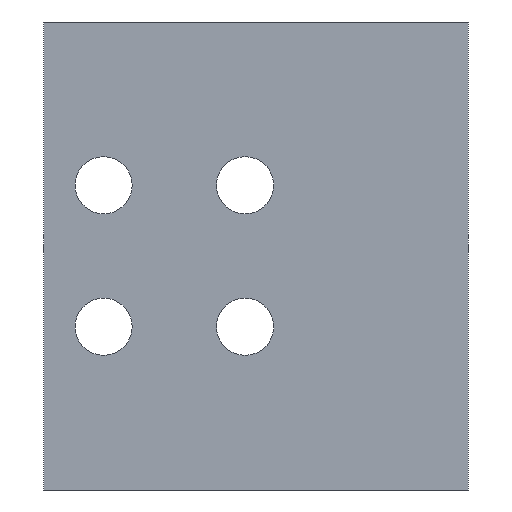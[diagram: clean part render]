
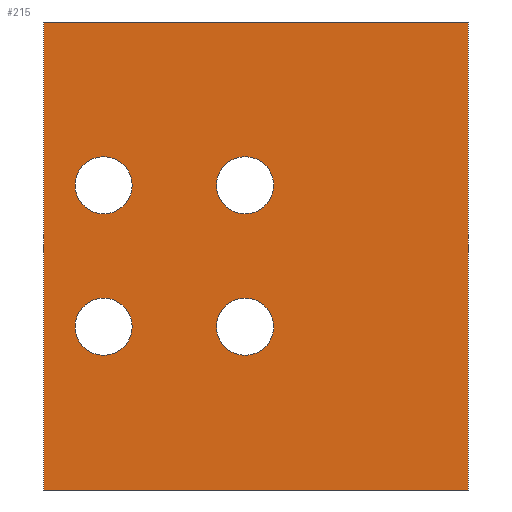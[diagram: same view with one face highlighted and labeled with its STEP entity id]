
A CAD part, front view. The second image highlights one B-rep face of the part: STEP entity #215.
In plain terms, the highlighted planar face has unit normal (0, -1, 0).
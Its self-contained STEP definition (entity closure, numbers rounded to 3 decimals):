
#105 = VERTEX_POINT( '', #272 );
#107 = EDGE_CURVE( '', #105, #131, #274, .T. );
#109 = EDGE_CURVE( '', #149, #113, #276, .T. );
#111 = EDGE_CURVE( '', #223, #219, #278, .T. );
#113 = VERTEX_POINT( '', #280 );
#119 = VERTEX_POINT( '', #286 );
#123 = VERTEX_POINT( '', #290 );
#131 = VERTEX_POINT( '', #298 );
#135 = VERTEX_POINT( '', #303 );
#141 = VERTEX_POINT( '', #309 );
#143 = EDGE_CURVE( '', #135, #223, #311, .T. );
#149 = VERTEX_POINT( '', #318 );
#157 = VERTEX_POINT( '', #327 );
#171 = EDGE_CURVE( '', #211, #119, #348, .T. );
#185 = EDGE_CURVE( '', #135, #157, #363, .T. );
#187 = EDGE_CURVE( '', #119, #211, #365, .T. );
#195 = EDGE_CURVE( '', #131, #105, #374, .T. );
#211 = VERTEX_POINT( '', #392 );
#213 = EDGE_CURVE( '', #123, #141, #394, .T. );
#215 = ADVANCED_FACE( '', ( #396, #397, #398, #399, #400 ), #401, .T. );
#219 = VERTEX_POINT( '', #405 );
#223 = VERTEX_POINT( '', #409 );
#229 = EDGE_CURVE( '', #157, #219, #415, .T. );
#235 = EDGE_CURVE( '', #113, #149, #421, .T. );
#239 = EDGE_CURVE( '', #141, #123, #426, .T. );
#272 = CARTESIAN_POINT( '', ( -22.75, 0., 13. ) );
#274 = CIRCLE( '', #455, 5.25 );
#276 = CIRCLE( '', #458, 5.25 );
#278 = LINE( '', #461, #462 );
#280 = CARTESIAN_POINT( '', ( 3.25, 0., -13. ) );
#286 = CARTESIAN_POINT( '', ( -22.75, 0., -13. ) );
#290 = CARTESIAN_POINT( '', ( 3.25, 0., 13. ) );
#298 = CARTESIAN_POINT( '', ( -33.25, 0., 13. ) );
#303 = CARTESIAN_POINT( '', ( 39., 0., 43. ) );
#309 = CARTESIAN_POINT( '', ( -7.25, 0., 13. ) );
#311 = LINE( '', #503, #504 );
#318 = CARTESIAN_POINT( '', ( -7.25, 0., -13. ) );
#327 = CARTESIAN_POINT( '', ( 39., 0., -43. ) );
#348 = CIRCLE( '', #548, 5.25 );
#363 = LINE( '', #571, #572 );
#365 = CIRCLE( '', #575, 5.25 );
#374 = CIRCLE( '', #588, 5.25 );
#392 = CARTESIAN_POINT( '', ( -33.25, 0., -13. ) );
#394 = CIRCLE( '', #614, 5.25 );
#396 = FACE_BOUND( '', #616, .T. );
#397 = FACE_BOUND( '', #617, .T. );
#398 = FACE_BOUND( '', #618, .T. );
#399 = FACE_BOUND( '', #619, .T. );
#400 = FACE_OUTER_BOUND( '', #620, .T. );
#401 = PLANE( '', #621 );
#405 = CARTESIAN_POINT( '', ( -39., 0., -43. ) );
#409 = CARTESIAN_POINT( '', ( -39., 0., 43. ) );
#415 = LINE( '', #642, #643 );
#421 = CIRCLE( '', #650, 5.25 );
#426 = CIRCLE( '', #656, 5.25 );
#455 = AXIS2_PLACEMENT_3D( '', #679, #680, #681 );
#458 = AXIS2_PLACEMENT_3D( '', #682, #683, #684 );
#461 = CARTESIAN_POINT( '', ( -39., 0., 43. ) );
#462 = VECTOR( '', #685, 1. );
#503 = CARTESIAN_POINT( '', ( 39., 0., 43. ) );
#504 = VECTOR( '', #699, 1. );
#548 = AXIS2_PLACEMENT_3D( '', #756, #757, #758 );
#571 = CARTESIAN_POINT( '', ( 39., 0., 43. ) );
#572 = VECTOR( '', #773, 1. );
#575 = AXIS2_PLACEMENT_3D( '', #774, #775, #776 );
#588 = AXIS2_PLACEMENT_3D( '', #789, #790, #791 );
#614 = AXIS2_PLACEMENT_3D( '', #813, #814, #815 );
#616 = EDGE_LOOP( '', ( #817, #818 ) );
#617 = EDGE_LOOP( '', ( #819, #820 ) );
#618 = EDGE_LOOP( '', ( #821, #822 ) );
#619 = EDGE_LOOP( '', ( #823, #824 ) );
#620 = EDGE_LOOP( '', ( #825, #826, #827, #828 ) );
#621 = AXIS2_PLACEMENT_3D( '', #829, #830, #831 );
#642 = CARTESIAN_POINT( '', ( 39., 0., -43. ) );
#643 = VECTOR( '', #835, 1. );
#650 = AXIS2_PLACEMENT_3D( '', #836, #837, #838 );
#656 = AXIS2_PLACEMENT_3D( '', #847, #848, #849 );
#679 = CARTESIAN_POINT( '', ( -28., 0., 13. ) );
#680 = DIRECTION( '', ( 0., 1., 0. ) );
#681 = DIRECTION( '', ( -1., 0., 0. ) );
#682 = CARTESIAN_POINT( '', ( -2., 0., -13. ) );
#683 = DIRECTION( '', ( 0., 1., 0. ) );
#684 = DIRECTION( '', ( -1., 0., 0. ) );
#685 = DIRECTION( '', ( 0., 0., -1. ) );
#699 = DIRECTION( '', ( -1., 0., 0. ) );
#756 = CARTESIAN_POINT( '', ( -28., 0., -13. ) );
#757 = DIRECTION( '', ( 0., 1., 0. ) );
#758 = DIRECTION( '', ( -1., 0., 0. ) );
#773 = DIRECTION( '', ( 0., 0., -1. ) );
#774 = CARTESIAN_POINT( '', ( -28., 0., -13. ) );
#775 = DIRECTION( '', ( 0., 1., 0. ) );
#776 = DIRECTION( '', ( -1., 0., 0. ) );
#789 = CARTESIAN_POINT( '', ( -28., 0., 13. ) );
#790 = DIRECTION( '', ( 0., 1., 0. ) );
#791 = DIRECTION( '', ( -1., 0., 0. ) );
#813 = CARTESIAN_POINT( '', ( -2., 0., 13. ) );
#814 = DIRECTION( '', ( 0., 1., 0. ) );
#815 = DIRECTION( '', ( -1., 0., 0. ) );
#817 = ORIENTED_EDGE( '', *, *, #213, .T. );
#818 = ORIENTED_EDGE( '', *, *, #239, .T. );
#819 = ORIENTED_EDGE( '', *, *, #107, .T. );
#820 = ORIENTED_EDGE( '', *, *, #195, .T. );
#821 = ORIENTED_EDGE( '', *, *, #235, .T. );
#822 = ORIENTED_EDGE( '', *, *, #109, .T. );
#823 = ORIENTED_EDGE( '', *, *, #187, .T. );
#824 = ORIENTED_EDGE( '', *, *, #171, .T. );
#825 = ORIENTED_EDGE( '', *, *, #111, .T. );
#826 = ORIENTED_EDGE( '', *, *, #229, .F. );
#827 = ORIENTED_EDGE( '', *, *, #185, .F. );
#828 = ORIENTED_EDGE( '', *, *, #143, .T. );
#829 = CARTESIAN_POINT( '', ( 39., 0., 43. ) );
#830 = DIRECTION( '', ( 0., -1., 0. ) );
#831 = DIRECTION( '', ( 0., 0., 1. ) );
#835 = DIRECTION( '', ( -1., 0., 0. ) );
#836 = CARTESIAN_POINT( '', ( -2., 0., -13. ) );
#837 = DIRECTION( '', ( 0., 1., 0. ) );
#838 = DIRECTION( '', ( -1., 0., 0. ) );
#847 = CARTESIAN_POINT( '', ( -2., 0., 13. ) );
#848 = DIRECTION( '', ( 0., 1., 0. ) );
#849 = DIRECTION( '', ( -1., 0., 0. ) );
